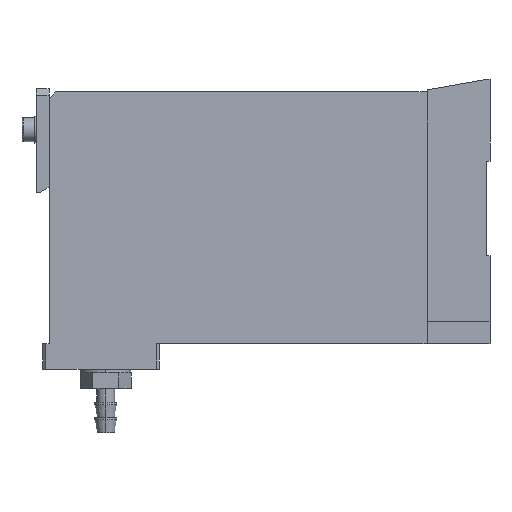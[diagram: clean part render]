
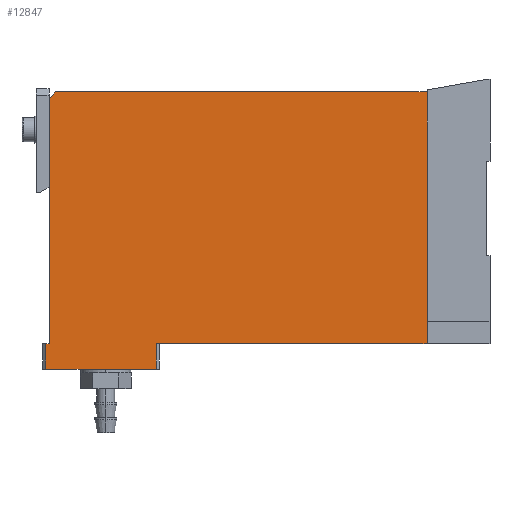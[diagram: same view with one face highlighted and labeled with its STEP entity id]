
A CAD part, left-side view. The second image highlights one B-rep face of the part: STEP entity #12847.
In plain terms, the highlighted planar face has unit normal (-1, 0, 0).
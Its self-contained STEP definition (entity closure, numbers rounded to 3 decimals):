
#294 = LINE ( 'NONE', #4494, #9425 ) ;
#858 = EDGE_CURVE ( 'NONE', #9894, #25354, #6319, .T. ) ;
#1049 = CARTESIAN_POINT ( 'NONE',  ( -15., 10., -21. ) ) ;
#1072 = LINE ( 'NONE', #6940, #15972 ) ;
#1338 = VERTEX_POINT ( 'NONE', #24310 ) ;
#1806 = PLANE ( 'NONE',  #2561 ) ;
#1927 = ORIENTED_EDGE ( 'NONE', *, *, #27370, .T. ) ;
#2426 = DIRECTION ( 'NONE',  ( 0., -1., 0. ) ) ;
#2561 = AXIS2_PLACEMENT_3D ( 'NONE', #7326, #26868, #2426 ) ;
#3507 = CARTESIAN_POINT ( 'NONE',  ( -15., 69., 19. ) ) ;
#3919 = CARTESIAN_POINT ( 'NONE',  ( -15., 70.5, -21. ) ) ;
#4494 = CARTESIAN_POINT ( 'NONE',  ( -15., 70.5, -25. ) ) ;
#4556 = VECTOR ( 'NONE', #6278, 1000. ) ;
#5196 = EDGE_CURVE ( 'NONE', #28401, #23153, #19099, .T. ) ;
#5336 = DIRECTION ( 'NONE',  ( 0., 0., 1. ) ) ;
#5495 = CARTESIAN_POINT ( 'NONE',  ( -15., 70.5, -21. ) ) ;
#5669 = CARTESIAN_POINT ( 'NONE',  ( -15., 10., -21. ) ) ;
#5739 = DIRECTION ( 'NONE',  ( 0., 0.707, -0.707 ) ) ;
#6278 = DIRECTION ( 'NONE',  ( 0., 1., 0. ) ) ;
#6319 = LINE ( 'NONE', #15280, #28424 ) ;
#6940 = CARTESIAN_POINT ( 'NONE',  ( -15., 53., -25. ) ) ;
#7256 = CARTESIAN_POINT ( 'NONE',  ( -15., 10., 19. ) ) ;
#7326 = CARTESIAN_POINT ( 'NONE',  ( -15., 76.55, -29.4 ) ) ;
#7538 = DIRECTION ( 'NONE',  ( 0., -1., 0. ) ) ;
#7639 = VECTOR ( 'NONE', #30049, 1000. ) ;
#7932 = CARTESIAN_POINT ( 'NONE',  ( -15., 70.5, -25. ) ) ;
#8174 = EDGE_LOOP ( 'NONE', ( #24813, #1927, #19884, #28897, #20493, #29283, #29393, #13561, #14524, #15440 ) ) ;
#8283 = LINE ( 'NONE', #7256, #25092 ) ;
#8299 = EDGE_CURVE ( 'NONE', #21113, #28401, #27989, .T. ) ;
#8834 = LINE ( 'NONE', #9804, #29053 ) ;
#9425 = VECTOR ( 'NONE', #29780, 1000. ) ;
#9804 = CARTESIAN_POINT ( 'NONE',  ( -15., 69., 19. ) ) ;
#9894 = VERTEX_POINT ( 'NONE', #12888 ) ;
#9959 = VECTOR ( 'NONE', #5739, 1000. ) ;
#10066 = VECTOR ( 'NONE', #13865, 1000. ) ;
#10846 = VECTOR ( 'NONE', #15945, 1000. ) ;
#11805 = EDGE_CURVE ( 'NONE', #9894, #27841, #15268, .T. ) ;
#12847 = ADVANCED_FACE ( 'NONE', ( #30481 ), #1806, .T. ) ;
#12888 = CARTESIAN_POINT ( 'NONE',  ( -15., 70., -21. ) ) ;
#13561 = ORIENTED_EDGE ( 'NONE', *, *, #5196, .F. ) ;
#13865 = DIRECTION ( 'NONE',  ( 0., 0., -1. ) ) ;
#13948 = CARTESIAN_POINT ( 'NONE',  ( -15., 10., -17.5 ) ) ;
#14524 = ORIENTED_EDGE ( 'NONE', *, *, #8299, .F. ) ;
#14662 = DIRECTION ( 'NONE',  ( 0., 0., 1. ) ) ;
#15123 = CARTESIAN_POINT ( 'NONE',  ( -15., 53., -21. ) ) ;
#15268 = LINE ( 'NONE', #20925, #4556 ) ;
#15280 = CARTESIAN_POINT ( 'NONE',  ( -15., 70., -21. ) ) ;
#15440 = ORIENTED_EDGE ( 'NONE', *, *, #29326, .F. ) ;
#15831 = CARTESIAN_POINT ( 'NONE',  ( -15., 10., -17.5 ) ) ;
#15945 = DIRECTION ( 'NONE',  ( 0., 0., -1. ) ) ;
#15972 = VECTOR ( 'NONE', #14662, 1000. ) ;
#18907 = EDGE_CURVE ( 'NONE', #30598, #20234, #294, .T. ) ;
#19099 = LINE ( 'NONE', #1049, #7639 ) ;
#19884 = ORIENTED_EDGE ( 'NONE', *, *, #858, .F. ) ;
#20234 = VERTEX_POINT ( 'NONE', #21032 ) ;
#20493 = ORIENTED_EDGE ( 'NONE', *, *, #21825, .T. ) ;
#20495 = CARTESIAN_POINT ( 'NONE',  ( -15., 69., 19. ) ) ;
#20925 = CARTESIAN_POINT ( 'NONE',  ( -15., 70., -21. ) ) ;
#21032 = CARTESIAN_POINT ( 'NONE',  ( -15., 53., -25. ) ) ;
#21113 = VERTEX_POINT ( 'NONE', #13948 ) ;
#21825 = EDGE_CURVE ( 'NONE', #27841, #30598, #29513, .T. ) ;
#23153 = VERTEX_POINT ( 'NONE', #15123 ) ;
#24310 = CARTESIAN_POINT ( 'NONE',  ( -15., 10., 19. ) ) ;
#24813 = ORIENTED_EDGE ( 'NONE', *, *, #26582, .F. ) ;
#25092 = VECTOR ( 'NONE', #31299, 1000. ) ;
#25354 = VERTEX_POINT ( 'NONE', #28629 ) ;
#26582 = EDGE_CURVE ( 'NONE', #30124, #1338, #8834, .T. ) ;
#26868 = DIRECTION ( 'NONE',  ( -1., 0., 0. ) ) ;
#27370 = EDGE_CURVE ( 'NONE', #30124, #25354, #30954, .T. ) ;
#27841 = VERTEX_POINT ( 'NONE', #5495 ) ;
#27989 = LINE ( 'NONE', #15831, #10846 ) ;
#28401 = VERTEX_POINT ( 'NONE', #5669 ) ;
#28424 = VECTOR ( 'NONE', #5336, 1000. ) ;
#28629 = CARTESIAN_POINT ( 'NONE',  ( -15., 70., 18. ) ) ;
#28897 = ORIENTED_EDGE ( 'NONE', *, *, #11805, .T. ) ;
#29053 = VECTOR ( 'NONE', #7538, 1000. ) ;
#29277 = EDGE_CURVE ( 'NONE', #20234, #23153, #1072, .T. ) ;
#29283 = ORIENTED_EDGE ( 'NONE', *, *, #18907, .T. ) ;
#29326 = EDGE_CURVE ( 'NONE', #1338, #21113, #8283, .T. ) ;
#29393 = ORIENTED_EDGE ( 'NONE', *, *, #29277, .T. ) ;
#29513 = LINE ( 'NONE', #3919, #10066 ) ;
#29780 = DIRECTION ( 'NONE',  ( 0., -1., 0. ) ) ;
#30049 = DIRECTION ( 'NONE',  ( 0., 1., 0. ) ) ;
#30124 = VERTEX_POINT ( 'NONE', #20495 ) ;
#30481 = FACE_OUTER_BOUND ( 'NONE', #8174, .T. ) ;
#30598 = VERTEX_POINT ( 'NONE', #7932 ) ;
#30954 = LINE ( 'NONE', #3507, #9959 ) ;
#31299 = DIRECTION ( 'NONE',  ( 0., 0., -1. ) ) ;
